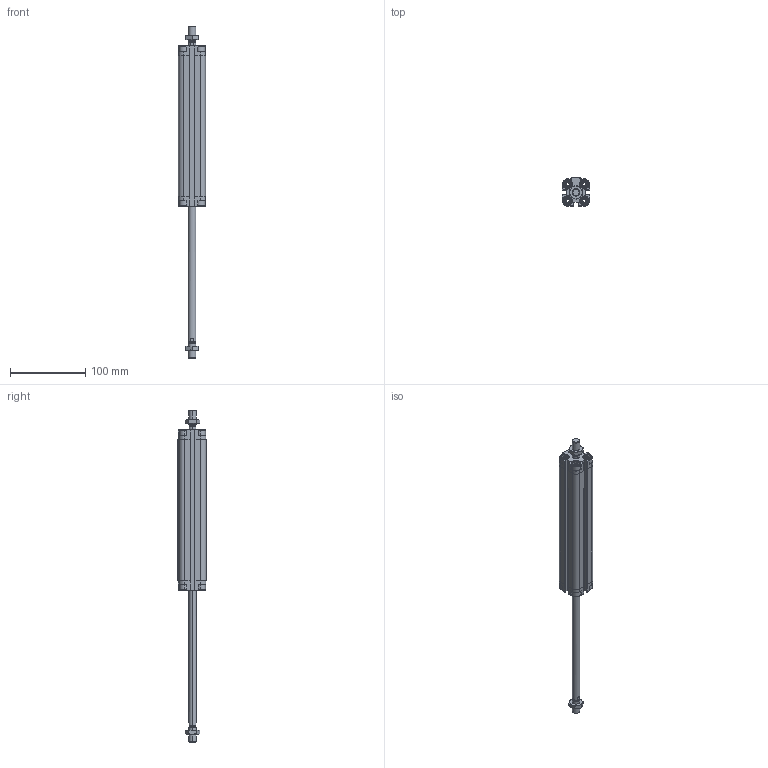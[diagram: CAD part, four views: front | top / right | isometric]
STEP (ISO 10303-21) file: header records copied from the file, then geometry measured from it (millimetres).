
FILE_DESCRIPTION (( 'STEP AP203' ), '1' );
FILE_NAME ('CDVU20-175M-P.STEP', '2020-07-21T15:10:47', ( '' ), ( '' ), 'SwSTEP 2.0', 'SolidWorks 2019', '' );
FILE_SCHEMA (( 'CONFIG_CONTROL_DESIGN' ));
Length unit declared in the file: millimetre
Products named in the file (1): CDVU20-175M-P
Bounding box: 36 x 37.5 x 441 mm (x, y, z)
Volume: 187269.4 mm3; surface area: 90818.6 mm2
Topology: 4 solids, 4 shells, 642 faces, 1674 edges, 1078 vertices
Faces by surface type: plane 374, cylinder 188, cone 64, torus 16
Entity records: 20369 total; most frequent: CARTESIAN_POINT 4535, ORIENTED_EDGE 3340, DIRECTION 3212, EDGE_CURVE 1670, AXIS2_PLACEMENT_3D 1115, VERTEX_POINT 1078, VECTOR 982, LINE 982
